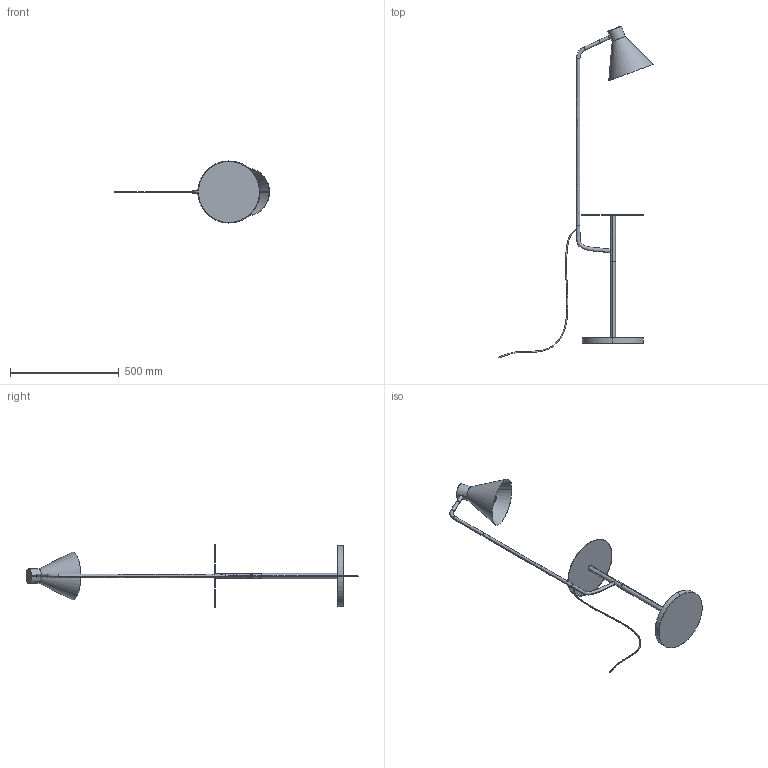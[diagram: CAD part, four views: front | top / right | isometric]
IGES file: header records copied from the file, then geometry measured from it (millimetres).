
Start section: SolidWorks IGES file using analytic representation for surfaces
Global section: file name: F:\燠隴矨\3D\2025-7\Macaroon Floor Lamp.IGS,15; native system: HSolidWorks 2022; preprocessor: SolidWorks 2022; author: MyPC; date: 250719.090923; units: millimetre
Bounding box: 710.15 x 1523.7 x 285 mm (x, y, z)
Surface area: 599931 mm2 (no closed solid volume)
Topology: 0 solids, 0 shells, 144 faces, 1384 edges, 1377 vertices
Faces by surface type: revolution 86, bspline 58
